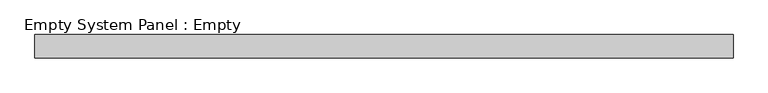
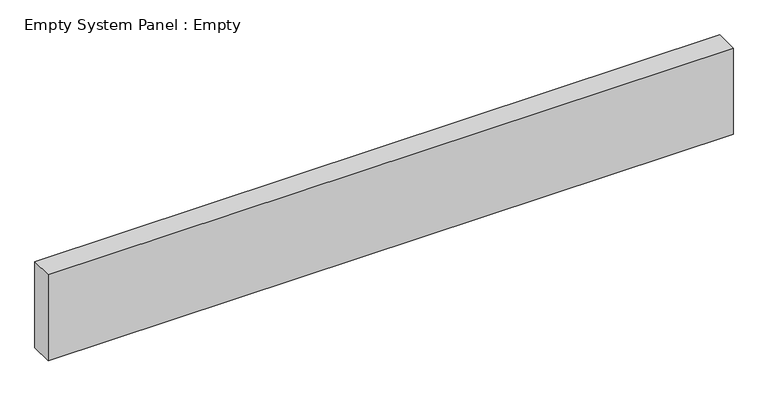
"""IFC4 building model written with IfcOpenShell, lengths in millimetres: plate geometry, Empty System Panel : Empty."""

import ifcopenshell
import ifcopenshell.guid

model = None  # the IFC model being written
_history = None  # IfcOwnerHistory: only IFC2X3 demands one
_inside = {}  # id of a spatial element -> (the spatial element, [elements in it])
_under = {}  # id of a project, library or spatial element -> (it, [spatial elements below it])
_declared = {}  # id of a project -> (the project, [libraries it declares])
_typed = {}  # id of a type object -> (the type object, [elements of that type])
_made_of = {}  # id of a material, layer set ... -> (it, [elements and type objects made of it])


def new_model(schema):
    """Start an empty IFC model of exactly this schema.

    Asked for "IFC4X3", IfcOpenShell would pick the latest addendum, in which some entities
    have other attributes; the version numbers below select the first issue.
    IFC2X3 requires an IfcOwnerHistory on every rooted entity: one is made here for all.
    """
    global model, _history
    if schema == "IFC4X3":
        model = ifcopenshell.file(schema_version=(4, 3, 0, 0))
    else:
        model = ifcopenshell.file(schema=schema)
    _inside.clear()
    _under.clear()
    _declared.clear()
    _typed.clear()
    _made_of.clear()
    _history = None
    if model.schema == "IFC2X3":
        org = make("IfcOrganization", Name="unknown")
        user = make(
            "IfcPersonAndOrganization",
            ThePerson=make("IfcPerson", FamilyName="unknown"),
            TheOrganization=org,
        )
        app = make(
            "IfcApplication",
            ApplicationDeveloper=org,
            Version="unknown",
            ApplicationFullName="unknown",
            ApplicationIdentifier="unknown",
        )
        _history = make(
            "IfcOwnerHistory",
            OwningUser=user,
            OwningApplication=app,
            ChangeAction="ADDED",
            CreationDate=0,
        )
    return model


def make(cls, **values):
    """One entity of the class cls with the attributes given. An attribute that is None is left unset."""
    return model.create_entity(
        cls, **{name: value for name, value in values.items() if value is not None}
    )


def rooted(cls, **values):
    """An entity with a GlobalId (a new one), such as an element, a storey or a relation."""
    return make(cls, GlobalId=ifcopenshell.guid.new(), OwnerHistory=_history, **values)


def si_unit(unit_type, name, prefix=None):
    """IfcSIUnit, for example si_unit("LENGTHUNIT", "METRE", prefix="MILLI")."""
    return make("IfcSIUnit", UnitType=unit_type, Prefix=prefix, Name=name)


def assignment(units):
    """IfcUnitAssignment: the units of a project."""
    return None if units is None else make("IfcUnitAssignment", Units=units)


def point(xyz):
    """IfcCartesianPoint."""
    return None if xyz is None else make("IfcCartesianPoint", Coordinates=xyz)


def direction(xyz):
    """IfcDirection."""
    return None if xyz is None else make("IfcDirection", DirectionRatios=xyz)


def frame(location, z_axis=None, x_axis=None):
    """IfcAxis2Placement3D, a coordinate frame: its origin and axes. An axis left out is left unset."""
    return make(
        "IfcAxis2Placement3D",
        Location=point(location),
        Axis=direction(z_axis),
        RefDirection=direction(x_axis),
    )


def origin():
    """The frame at (0, 0, 0) with its axes left unset."""
    return frame((0.0, 0.0, 0.0))


def origin_with_axes():
    """The frame at (0, 0, 0) with the z axis (0, 0, 1) and the x axis (1, 0, 0) written out."""
    return frame((0.0, 0.0, 0.0), z_axis=(0.0, 0.0, 1.0), x_axis=(1.0, 0.0, 0.0))


def place(relative_to, where):
    """IfcLocalPlacement: puts the frame where relative to a parent placement (None: the world)."""
    return make(
        "IfcLocalPlacement", PlacementRelTo=relative_to, RelativePlacement=where
    )


def context(
    kind, dimensions, precision=None, world=None, true_north=None, identifier=None
):
    """IfcGeometricRepresentationContext, for example the 3D "Model" context."""
    return make(
        "IfcGeometricRepresentationContext",
        ContextIdentifier=identifier,
        ContextType=kind,
        CoordinateSpaceDimension=dimensions,
        Precision=precision,
        WorldCoordinateSystem=world,
        TrueNorth=true_north,
    )


def project(units=None, contexts=None):
    """IfcProject with its units and contexts."""
    return rooted(
        "IfcProject",
        Name="project",
        RepresentationContexts=contexts,
        UnitsInContext=assignment(units),
    )


def spatial(cls, under=None, at=None, **own):
    """A site, building, storey or space (cls), placed at a placement, below another one or the project."""
    s = rooted(cls, ObjectPlacement=at, **own)
    if under is not None:
        _under.setdefault(under.id(), (under, []))[1].append(s)
    return s


def polyline(points):
    """IfcPolyline through the points."""
    return make("IfcPolyline", Points=[point(p) for p in points])


def outline(outer, holes=None, kind="AREA"):
    """IfcArbitraryClosedProfileDef: a profile drawn as a closed curve; with holes, ...WithVoids."""
    if holes is None:
        return make("IfcArbitraryClosedProfileDef", ProfileType=kind, OuterCurve=outer)
    return make(
        "IfcArbitraryProfileDefWithVoids",
        ProfileType=kind,
        OuterCurve=outer,
        InnerCurves=holes,
    )


def extrude(swept, where, along, depth):
    """IfcExtrudedAreaSolid: the profile swept, set in the frame where, extruded along a direction by depth."""
    return make(
        "IfcExtrudedAreaSolid",
        SweptArea=swept,
        Position=where,
        ExtrudedDirection=direction(along),
        Depth=depth,
    )


def shape(context_of_items, identifier, shape_type, items):
    """IfcShapeRepresentation: the items that make up one representation, for example the "Body"."""
    return make(
        "IfcShapeRepresentation",
        ContextOfItems=context_of_items,
        RepresentationIdentifier=identifier,
        RepresentationType=shape_type,
        Items=items,
    )


def source(mapping_origin, context_of_items, identifier, shape_type, items):
    """IfcRepresentationMap: a shape defined once, which mapped items show again and again."""
    return make(
        "IfcRepresentationMap",
        MappingOrigin=mapping_origin,
        MappedRepresentation=shape(context_of_items, identifier, shape_type, items),
    )


def transform(
    local_origin,
    x_axis=None,
    y_axis=None,
    z_axis=None,
    scale=None,
    scale2=None,
    scale3=None,
    uniform=True,
):
    """IfcCartesianTransformationOperator3D, or its non-uniform kind. x_axis, y_axis, z_axis: its Axis1, 2, 3."""
    if uniform:
        return make(
            "IfcCartesianTransformationOperator3D",
            Axis1=direction(x_axis),
            Axis2=direction(y_axis),
            LocalOrigin=point(local_origin),
            Scale=scale,
            Axis3=direction(z_axis),
        )
    return make(
        "IfcCartesianTransformationOperator3DnonUniform",
        Axis1=direction(x_axis),
        Axis2=direction(y_axis),
        LocalOrigin=point(local_origin),
        Scale=scale,
        Axis3=direction(z_axis),
        Scale2=scale2,
        Scale3=scale3,
    )


def mapped(mapping_source, mapping_target):
    """IfcMappedItem: shows the shape of a source again, moved by a transform."""
    return make(
        "IfcMappedItem", MappingSource=mapping_source, MappingTarget=mapping_target
    )


def made_of(thing, what):
    """Note that an element or type object is made of a material, layer set ...; save() writes the relation."""
    if what is not None:
        _made_of.setdefault(what.id(), (what, []))[1].append(thing)
    return thing


def element(
    cls,
    number,
    at=None,
    inside=None,
    cuts=None,
    type_object=None,
    material=None,
    context=None,
    identifier="Body",
    shape_type=None,
    held_by="IfcProductDefinitionShape",
    body=None,
    shapes=None,
    **own,
):
    """One element of the class cls, such as IfcWall. Its Tag is "e" and its number.

    at: its placement. inside: the storey or other place that contains it. cuts: it is an
    opening in that element (IfcRelVoidsElement). A single representation is given by context,
    identifier, shape_type and body (its items); several are given by shapes. held_by: the class
    of the entity that holds the representations. save() writes the other relations.
    """
    e = rooted(cls, Tag="e%d" % number, ObjectPlacement=at, **own)
    if body is not None:
        shapes = [shape(context, identifier, shape_type, body)]
    if shapes is not None:
        e.Representation = make(held_by, Representations=shapes)
    if inside is not None:
        _inside.setdefault(inside.id(), (inside, []))[1].append(e)
    if cuts is not None:
        rooted(
            "IfcRelVoidsElement", RelatingBuildingElement=cuts, RelatedOpeningElement=e
        )
    if type_object is not None:
        _typed.setdefault(type_object.id(), (type_object, []))[1].append(e)
    return made_of(e, material)


def aggregate(whole, parts):
    """IfcRelAggregates: a whole, such as a stair, and the parts it consists of."""
    return rooted("IfcRelAggregates", RelatingObject=whole, RelatedObjects=parts)


def save(model, path):
    """Write the relations noted so far, then the file.

    IfcRelAggregates (storeys below a building ...), IfcRelContainedInSpatialStructure (elements
    in a storey), IfcRelDefinesByType, IfcRelAssociatesMaterial and IfcRelDeclares: one each for
    every whole, place, type object, material and project.
    """
    for whole, parts in _under.values():
        aggregate(whole, parts)
    for where, things in _inside.values():
        rooted(
            "IfcRelContainedInSpatialStructure",
            RelatedElements=things,
            RelatingStructure=where,
        )
    for kind, things in _typed.values():
        rooted("IfcRelDefinesByType", RelatedObjects=things, RelatingType=kind)
    for what, things in _made_of.values():
        rooted("IfcRelAssociatesMaterial", RelatedObjects=things, RelatingMaterial=what)
    for by, libraries in _declared.values():
        rooted("IfcRelDeclares", RelatingContext=by, RelatedDefinitions=libraries)
    model.write(path)


def empty_system_panel_empty_08c20342(model_context):
    return source(origin(), model_context, "Body", "SweptSolid", [
        extrude(outline(polyline([(1500.0, -50.0), (-1500.0, -50.0), (-1500.0, 50.0), (1500.0, 50.0), (1500.0, -50.0)])), origin_with_axes(), (0.0, 0.0, 1.0), 398.5248199),
    ])


if __name__ == "__main__":
    model = new_model("IFC4")
    model_context = context("Model", 3, world=origin())
    ifc_project = project(units=[si_unit("LENGTHUNIT", "METRE", prefix="MILLI")], contexts=[model_context])
    site = spatial("IfcSite", under=ifc_project)
    building = spatial("IfcBuilding", under=site)
    placement = place(None, origin())
    empty_system_panel_empty_shape = empty_system_panel_empty_08c20342(model_context)
    element("IfcPlate", 1, ObjectType="Empty System Panel : Empty", at=placement, inside=building, context=model_context, shape_type="MappedRepresentation", body=[
        mapped(empty_system_panel_empty_shape, transform((0.0, 0.0, 0.0), x_axis=(1.0, 0.0, 0.0), y_axis=(0.0, 1.0, 0.0), z_axis=(0.0, 0.0, 1.0))),
    ])
    save(model, "model.ifc")
